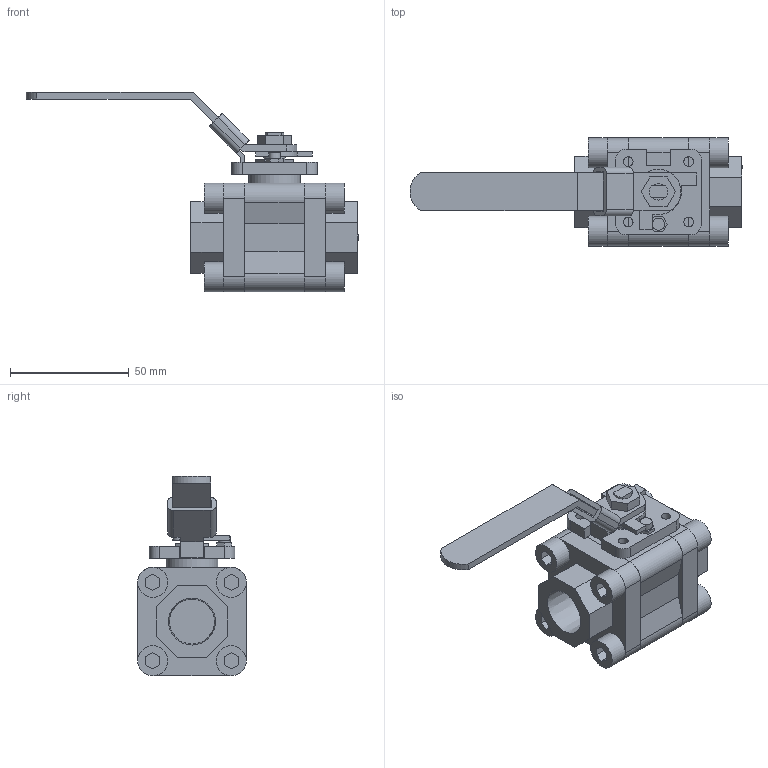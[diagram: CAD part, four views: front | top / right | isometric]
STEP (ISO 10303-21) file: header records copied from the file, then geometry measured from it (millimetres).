
FILE_DESCRIPTION((' '),'2;1');
FILE_NAME('N:\Technical Support\Private\Jomar Valve CAD\Ball Valves\CS and SS\2001N-4B\Threaded\0.5 T-CS[SS]-2001N-4B (601-613 [600-603])FusionCopy.stp.step','2017-09-14T11:19:36',(' '),(' '),' ','ACIS',' ');
FILE_SCHEMA(('CONFIG_CONTROL_DESIGN'));
Length unit declared in the file: inch
Products named in the file (19): N:\Technical Support\Private\Jomar Valve CAD\Ball Valves\CS and SS\2001N-4B\Threaded\0.5 T-CS[SS]-2001N-4B (601-613 [600-603])FusionCopy.stp.step; Body1; Body2; Body3; Body4; Body5; Body6; Body7; Body8; Body9; Body10; Body11; Body12; Body13; Body14; Body15; Body16; Body17; Body18
Assembly tree (18 placements, depth 2):
  N:\Technical Support\Private\Jomar Valve CAD\Ball Valves\CS and SS\2001N-4B\Threaded\0.5 T-CS[SS]-2001N-4B (601-613 [600-603])FusionCopy.stp.step
    Body1
    Body2
    Body3
    Body4
    Body5
    Body6
    Body7
    Body8
    Body9
    Body10
    Body11
    Body12
    Body13
    Body14
    Body15
    Body16
    Body17
    Body18
Bounding box: 139.8 x 45.72 x 84.07 mm (x, y, z)
Volume: 114995.8 mm3; surface area: 42309.8 mm2
Topology: 18 solids, 18 shells, 267 faces, 635 edges, 423 vertices
Faces by surface type: plane 154, bspline 69, cylinder 43, cone 1
Full cylindrical faces by diameter (mm): 4.064 x3, 4.953 x1, 5.08 x1, 6.985 x1, 8.89 x1, 12.281 x1, 12.7 x4, 19.05 x1, 19.304 x1, 21.844 x1
Entity records: 10471 total; most frequent: CARTESIAN_POINT 1723, ORIENTED_EDGE 1218, DIRECTION 1198, EDGE_CURVE 609, VECTOR 490, LINE 490, VERTEX_POINT 421, AXIS2_PLACEMENT_3D 354
